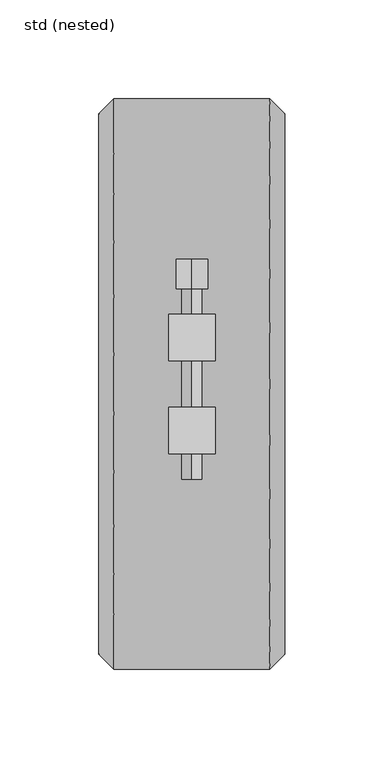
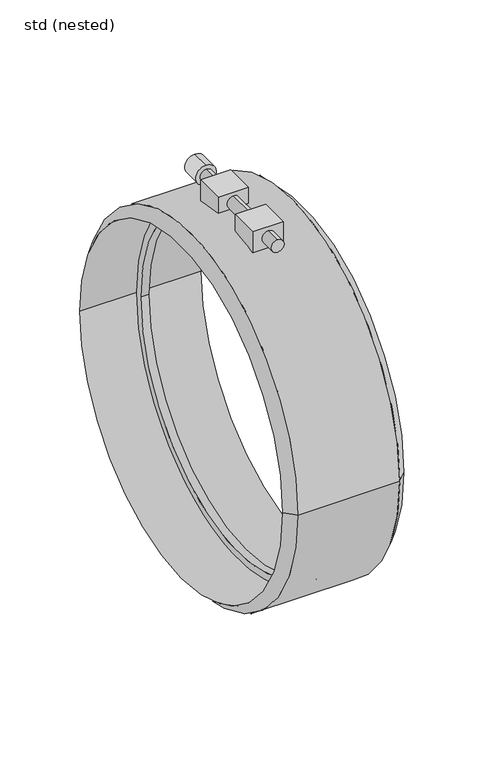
"""IFC4 building model written with IfcOpenShell, lengths in millimetres: pipe fitting geometry, ZZZ_do not use_PIF_ST_UN_GM-X rapid clamp_ACO : std (nested)."""

from ifc_helpers import new_model, si_unit, point, frame, frame_2d, origin, origin_2d, place, context, project, spatial, polyline, circle_curve, trimmed, segment, composite_curve, outline, extrude, source, transform, mapped, element, save
from ifc_brep_helpers import cylinder_surface, revolved_surface, advanced_brep


def std_nested_596bb4c3(model_context):
    return source(origin(), model_context, "Body", "SolidModel", [
        extrude(outline(composite_curve([segment(polyline([(-35.25, 157.0), (-11.75, 157.0), (-11.75, 143.62015)]), True, "CONTINUOUS"), segment(trimmed(circle_curve(origin_2d(), 144.1), [point((-11.75, 143.62015))], [point((-35.25, 139.7220366))], True, "CARTESIAN"), True, "CONTINUOUS"), segment(polyline([(-35.25, 139.7220366), (-35.25, 157.0)]), True, "CONTINUOUS")], self_intersect=False)), frame((-11.75, 0.0, 0.0), z_axis=(1.0, 0.0, 0.0), x_axis=(0.0, 1.0, 0.0)), (0.0, 0.0, 1.0), 23.5),
        extrude(outline(composite_curve([segment(polyline([(35.25, 157.0), (35.25, 139.7220366)]), True, "CONTINUOUS"), segment(trimmed(circle_curve(origin_2d(), 144.1), [point((35.25, 139.7220366))], [point((11.75, 143.62015))], True, "CARTESIAN"), True, "CONTINUOUS"), segment(polyline([(11.75, 143.62015), (11.75, 157.0), (35.25, 157.0)]), True, "CONTINUOUS")], self_intersect=False)), frame((-11.75, 0.0, 0.0), z_axis=(1.0, 0.0, 0.0), x_axis=(0.0, 1.0, 0.0)), (0.0, 0.0, 1.0), 23.5),
        extrude(outline(composite_curve([segment(trimmed(circle_curve(frame_2d((149.0, 0.0)), 8.0), [point((141.0, 0.0))], [point((157.0, 0.0))], False, "CARTESIAN"), True, "CONTINUOUS"), segment(trimmed(circle_curve(frame_2d((149.0, 0.0)), 8.0), [point((157.0, 0.0))], [point((141.0, 0.0))], False, "CARTESIAN"), True, "CONTINUOUS")], self_intersect=False)), frame((0.0, 48.1, 0.0), z_axis=(0.0, 1.0, 0.0), x_axis=(0.0, 0.0, 1.0)), (0.0, 0.0, 1.0), 15.0),
        extrude(outline(composite_curve([segment(trimmed(circle_curve(frame_2d((149.0, 0.0)), 5.0), [point((154.0, 0.0))], [point((144.0, 0.0))], False, "CARTESIAN"), True, "CONTINUOUS"), segment(trimmed(circle_curve(frame_2d((149.0, 0.0)), 5.0), [point((144.0, 0.0))], [point((154.0, 0.0))], False, "CARTESIAN"), True, "CONTINUOUS")], self_intersect=False)), frame((0.0, -48.1, 0.0), z_axis=(0.0, 1.0, 0.0), x_axis=(0.0, 0.0, 1.0)), (0.0, 0.0, 1.0), 96.2),
        extrude(outline(composite_curve([segment(trimmed(circle_curve(origin_2d(), 136.5), [point((-136.5, 0.0))], [point((136.5, 0.0))], False, "CARTESIAN"), True, "CONTINUOUS"), segment(trimmed(circle_curve(origin_2d(), 136.5), [point((136.5, 0.0))], [point((-136.5, 0.0))], False, "CARTESIAN"), True, "CONTINUOUS")], self_intersect=False), holes=[composite_curve([segment(trimmed(circle_curve(origin_2d(), 130.5), [point((-130.5, 0.0))], [point((130.5, 0.0))], True, "CARTESIAN"), True, "CONTINUOUS"), segment(trimmed(circle_curve(origin_2d(), 130.5), [point((130.5, 0.0))], [point((-130.5, 0.0))], True, "CARTESIAN"), True, "CONTINUOUS")], self_intersect=False)]), frame((-3.0, 0.0, 0.0), z_axis=(1.0, 0.0, 0.0), x_axis=(0.0, 1.0, 0.0)), (0.0, 0.0, 1.0), 6.0),
        advanced_brep(
        [(39.4, -144.1, 0.0), (39.4, 144.1, 0.0), (47.0, 136.5, 0.0), (47.0, -136.5, 0.0), (-39.4, -144.1, 0.0), (-39.4, 144.1, 0.0), (-47.0, -136.5, 0.0), (-47.0, 136.5, 0.0)],
        [
            (0, 1, circle_curve(frame((39.4, 0.0, 0.0), z_axis=(1.0, 0.0, 0.0), x_axis=(0.0, 1.0, 0.0)), 144.1)),
            (1, 2),
            (2, 3, circle_curve(frame((47.0, 0.0, 0.0), z_axis=(-1.0, 0.0, 0.0), x_axis=(0.0, 1.0, 0.0)), 136.5)),
            (3, 0),
            (1, 0, circle_curve(frame((39.4, 0.0, 0.0), z_axis=(1.0, 0.0, 0.0), x_axis=(0.0, 1.0, 0.0)), 144.1)),
            (3, 2, circle_curve(frame((47.0, 0.0, 0.0), z_axis=(-1.0, 0.0, 0.0), x_axis=(0.0, 1.0, 0.0)), 136.5)),
            (4, 5, circle_curve(frame((-39.4, 0.0, 0.0), z_axis=(1.0, 0.0, 0.0), x_axis=(0.0, 1.0, 0.0)), 144.1)),
            (5, 1),
            (0, 4),
            (5, 4, circle_curve(frame((-39.4, 0.0, 0.0), z_axis=(1.0, 0.0, 0.0), x_axis=(0.0, 1.0, 0.0)), 144.1)),
            (6, 7, circle_curve(frame((-47.0, 0.0, 0.0), z_axis=(1.0, 0.0, 0.0), x_axis=(0.0, 1.0, 0.0)), 136.5)),
            (7, 5),
            (4, 6),
            (7, 6, circle_curve(frame((-47.0, 0.0, 0.0), z_axis=(1.0, 0.0, 0.0), x_axis=(0.0, 1.0, 0.0)), 136.5)),
            (2, 7),
            (6, 3),
        ],
        [
            revolved_surface(polyline([(47.0, 136.5, 0.0), (39.4, 144.1, 0.0)]), (27.8528063, 0.0, 0.0), (-1.0, 0.0, 0.0)),
            cylinder_surface(frame((27.8528063, 0.0, 0.0), z_axis=(-1.0, 0.0, 0.0), x_axis=(0.0, 1.0, 0.0)), 144.1),
            revolved_surface(polyline([(-39.4, 144.1, 0.0), (-47.0, 136.5, 0.0)]), (27.8528063, 0.0, 0.0), (-1.0, 0.0, 0.0)),
            revolved_surface(polyline([(-47.0, 136.5, 0.0), (47.0, 136.5, 0.0)]), (27.8528063, 0.0, 0.0), (-1.0, 0.0, 0.0)),
        ],
        [
            (0, [[1, 2, 3, 4]]),
            (0, [[5, -4, 6, -2]]),
            (1, [[7, 8, -1, 9]]),
            (1, [[10, -9, -5, -8]]),
            (2, [[11, 12, -7, 13]]),
            (2, [[14, -13, -10, -12]]),
            (3, [[-3, 15, -11, 16]]),
            (3, [[-6, -16, -14, -15]]),
        ],
    ),
    ])


if __name__ == "__main__":
    model = new_model("IFC4")
    model_context = context("Model", 3, world=origin())
    ifc_project = project(units=[si_unit("LENGTHUNIT", "METRE", prefix="MILLI")], contexts=[model_context])
    site = spatial("IfcSite", under=ifc_project)
    building = spatial("IfcBuilding", under=site)
    placement = place(None, origin())
    std_nested_shape = std_nested_596bb4c3(model_context)
    element("IfcPipeFitting", 1, ObjectType="ZZZ_do not use_PIF_ST_UN_GM-X rapid clamp_ACO : std (nested)", at=placement, inside=building, context=model_context, shape_type="MappedRepresentation", body=[
        mapped(std_nested_shape, transform((0.0, 0.0, 0.0), x_axis=(1.0, 0.0, 0.0), y_axis=(0.0, 1.0, 0.0), z_axis=(0.0, 0.0, 1.0))),
    ])
    save(model, "model.ifc")
